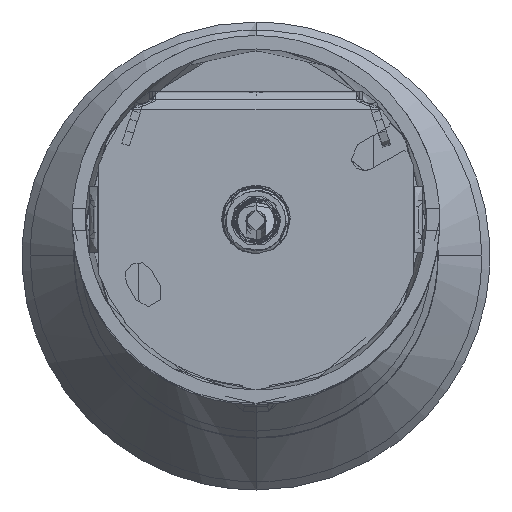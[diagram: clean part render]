
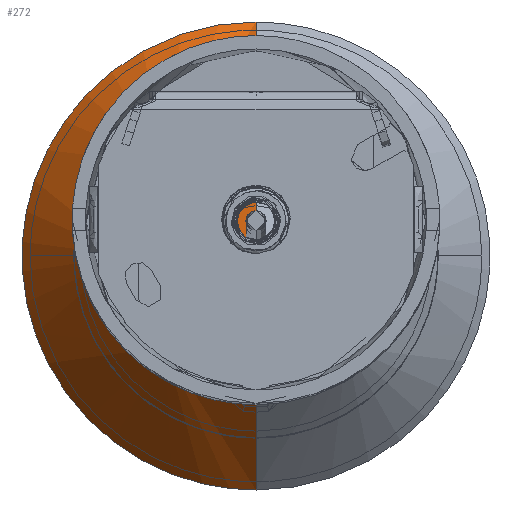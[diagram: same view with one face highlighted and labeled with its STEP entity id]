
A CAD part, top view. The second image highlights one B-rep face of the part: STEP entity #272.
In plain terms, the highlighted free-form (B-spline) face has degree [2, 1] with [9, 2] control points.
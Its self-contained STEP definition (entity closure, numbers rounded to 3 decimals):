
#272=ADVANCED_FACE('',(#885),#9293,.T.);
#885=FACE_OUTER_BOUND('',#1503,.T.);
#1503=EDGE_LOOP('',(#2452,#2453,#2454,#2455));
#2452=ORIENTED_EDGE('',*,*,#5305,.F.);
#2453=ORIENTED_EDGE('',*,*,#5164,.T.);
#2454=ORIENTED_EDGE('',*,*,#5131,.F.);
#2455=ORIENTED_EDGE('',*,*,#5306,.T.);
#5131=EDGE_CURVE('',#8152,#8149,#6617,.T.);
#5164=EDGE_CURVE('',#8150,#8149,#7516,.T.);
#5305=EDGE_CURVE('',#8150,#8151,#6670,.T.);
#5306=EDGE_CURVE('',#8152,#8151,#7611,.T.);
#6617=B_SPLINE_CURVE_WITH_KNOTS('',1,(#14549,#14550),.UNSPECIFIED.,.F.,
 .F.,(2,2),(0.,53.298),.UNSPECIFIED.);
#6670=B_SPLINE_CURVE_WITH_KNOTS('',1,(#15215,#15216),.UNSPECIFIED.,.F.,
 .F.,(2,2),(-53.298,0.),.UNSPECIFIED.);
#7516=(
BOUNDED_CURVE()
B_SPLINE_CURVE(2,(#14655,#14656,#14657,#14658,#14659),.UNSPECIFIED.,.F.,
 .F.)
B_SPLINE_CURVE_WITH_KNOTS((3,2,3),(-11.956,-8.967,
-5.978),.UNSPECIFIED.)
CURVE()
GEOMETRIC_REPRESENTATION_ITEM()
RATIONAL_B_SPLINE_CURVE((1.,0.707,1.,0.707,1.))
REPRESENTATION_ITEM('')
);
#7611=(
BOUNDED_CURVE()
B_SPLINE_CURVE(2,(#15217,#15218,#15219,#15220,#15221),.UNSPECIFIED.,.F.,
 .F.)
B_SPLINE_CURVE_WITH_KNOTS((3,2,3),(0.,54.978,109.956),
 .UNSPECIFIED.)
CURVE()
GEOMETRIC_REPRESENTATION_ITEM()
RATIONAL_B_SPLINE_CURVE((1.,0.707,1.,0.707,1.))
REPRESENTATION_ITEM('')
);
#8149=VERTEX_POINT('',#13995);
#8150=VERTEX_POINT('',#13996);
#8151=VERTEX_POINT('',#13997);
#8152=VERTEX_POINT('',#13998);
#9293=(
BOUNDED_SURFACE()
B_SPLINE_SURFACE(2,1,((#13000,#13001),(#13002,#13003),(#13004,#13005),(#13006,
#13007),(#13008,#13009),(#13010,#13011),(#13012,#13013),(#13014,#13015),
(#13016,#13017)),.UNSPECIFIED.,.T.,.F.,.F.)
B_SPLINE_SURFACE_WITH_KNOTS((3,2,2,2,3),(2,2),(0.,60.476,120.952,
181.427,241.903),(0.,62.294),.UNSPECIFIED.)
GEOMETRIC_REPRESENTATION_ITEM()
RATIONAL_B_SPLINE_SURFACE(((1.,1.),(0.707,0.707),
(1.,1.),(0.707,0.707),(1.,1.),(0.707,
0.707),(1.,1.),(0.707,0.707),(1.,1.)))
REPRESENTATION_ITEM('')
SURFACE()
);
#13000=CARTESIAN_POINT('',(0.,0.111,-918.309));
#13001=CARTESIAN_POINT('',(38.5,0.111,-967.282));
#13002=CARTESIAN_POINT('',(0.,0.111,-918.309));
#13003=CARTESIAN_POINT('',(38.5,-38.389,-967.282));
#13004=CARTESIAN_POINT('',(0.,0.111,-918.309));
#13005=CARTESIAN_POINT('',(0.,-38.389,-967.282));
#13006=CARTESIAN_POINT('',(0.,0.111,-918.309));
#13007=CARTESIAN_POINT('',(-38.5,-38.389,-967.282));
#13008=CARTESIAN_POINT('',(0.,0.111,-918.309));
#13009=CARTESIAN_POINT('',(-38.5,0.111,-967.282));
#13010=CARTESIAN_POINT('',(0.,0.111,-918.309));
#13011=CARTESIAN_POINT('',(-38.5,38.611,-967.282));
#13012=CARTESIAN_POINT('',(0.,0.111,-918.309));
#13013=CARTESIAN_POINT('',(0.,38.611,-967.282));
#13014=CARTESIAN_POINT('',(0.,0.111,-918.309));
#13015=CARTESIAN_POINT('',(38.5,38.611,-967.282));
#13016=CARTESIAN_POINT('',(0.,0.111,-918.309));
#13017=CARTESIAN_POINT('',(38.5,0.111,-967.282));
#13995=CARTESIAN_POINT('',(0.,2.171,-920.929));
#13996=CARTESIAN_POINT('',(0.,-1.949,-920.929));
#13997=CARTESIAN_POINT('',(0.,-34.889,-962.829));
#13998=CARTESIAN_POINT('',(0.,35.111,-962.829));
#14549=CARTESIAN_POINT('',(0.,35.111,-962.829));
#14550=CARTESIAN_POINT('',(0.,2.171,-920.929));
#14655=CARTESIAN_POINT('',(0.,-1.949,-920.929));
#14656=CARTESIAN_POINT('',(-2.06,-1.949,-920.929));
#14657=CARTESIAN_POINT('',(-2.06,0.111,-920.929));
#14658=CARTESIAN_POINT('',(-2.06,2.171,-920.929));
#14659=CARTESIAN_POINT('',(0.,2.171,-920.929));
#15215=CARTESIAN_POINT('',(0.,-1.949,-920.929));
#15216=CARTESIAN_POINT('',(0.,-34.889,-962.829));
#15217=CARTESIAN_POINT('',(0.,35.111,-962.829));
#15218=CARTESIAN_POINT('',(-35.,35.111,-962.829));
#15219=CARTESIAN_POINT('',(-35.,0.111,-962.829));
#15220=CARTESIAN_POINT('',(-35.,-34.889,-962.829));
#15221=CARTESIAN_POINT('',(0.,-34.889,-962.829));
